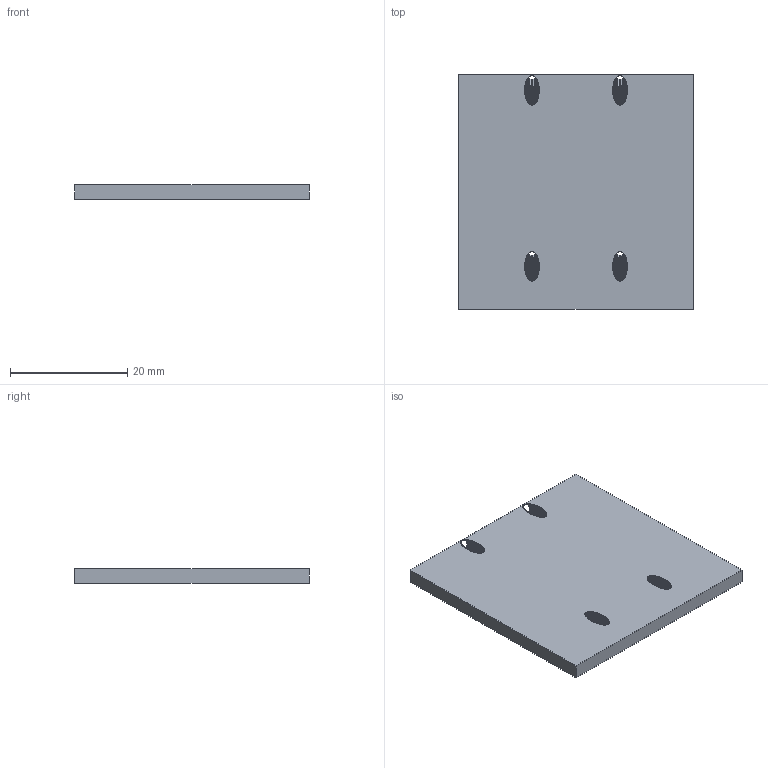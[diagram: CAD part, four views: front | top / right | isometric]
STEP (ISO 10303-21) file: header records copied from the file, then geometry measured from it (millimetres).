
FILE_DESCRIPTION(('Open CASCADE Model'),'2;1');
FILE_NAME('Open CASCADE Shape Model','2026-10-26T18:36:20',('Author'),( 'Open CASCADE'),'Open CASCADE STEP processor 7.9','Open CASCADE 7.9' ,'Unknown');
FILE_SCHEMA(('AUTOMOTIVE_DESIGN { 1 0 10303 214 1 1 1 1 }'));
Products named in the file (1): Open CASCADE STEP translator 7.9 1
Bounding box: 40 x 40 x 2.5 mm (x, y, z)
Volume: 3921 mm3; surface area: 3653.2 mm2
Topology: 1 solids, 1 shells, 1400 faces, 3020 edges, 1620 vertices
Faces by surface type: plane 1400
Entity records: 74870 total; most frequent: CARTESIAN_POINT 12081, DIRECTION 11862, LINE 9060, VECTOR 9060, ORIENTED_EDGE 6040, PCURVE 6040, DEFINITIONAL_REPRESENTATION 6040, EDGE_CURVE 3020
